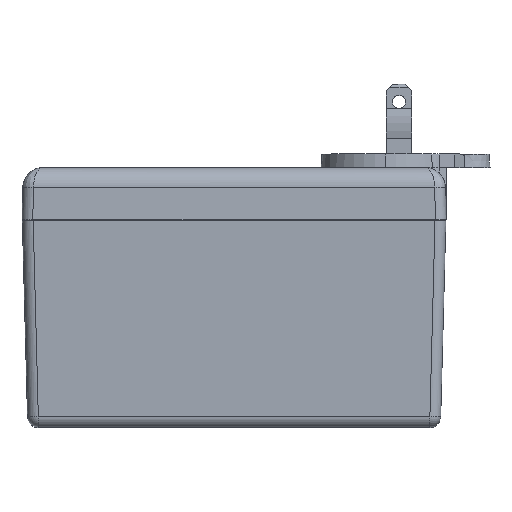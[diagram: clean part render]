
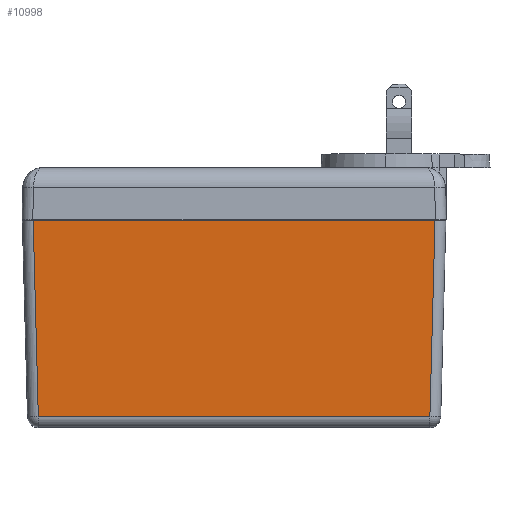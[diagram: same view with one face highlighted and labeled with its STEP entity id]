
A CAD part, top view. The second image highlights one B-rep face of the part: STEP entity #10998.
In plain terms, the highlighted planar face has unit normal (0, -0.026, 1).
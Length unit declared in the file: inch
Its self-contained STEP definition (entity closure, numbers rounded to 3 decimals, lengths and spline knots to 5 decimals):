
#331 = EDGE_LOOP ( 'NONE', ( #17230, #17231, #17232, #17233 ) ) ;
#2639 = FACE_OUTER_BOUND ( 'NONE', #331, .T. ) ;
#8388 = VERTEX_POINT ( 'NONE', #14700 ) ;
#8437 = VERTEX_POINT ( 'NONE', #14638 ) ;
#8485 = VERTEX_POINT ( 'NONE', #14584 ) ;
#8521 = VERTEX_POINT ( 'NONE', #14533 ) ;
#8904 = VECTOR ( 'NONE', #11808, 39.37008 ) ;
#8905 = LINE ( 'NONE', #11809, #8904 ) ;
#8906 = VECTOR ( 'NONE', #11810, 39.37008 ) ;
#8907 = LINE ( 'NONE', #11812, #8906 ) ;
#8908 = VECTOR ( 'NONE', #11813, 39.37008 ) ;
#8909 = LINE ( 'NONE', #11814, #8908 ) ;
#8933 = LINE ( 'NONE', #11830, #8936 ) ;
#8936 = VECTOR ( 'NONE', #11863, 39.37008 ) ;
#10998 = ADVANCED_FACE ( 'NONE', ( #2639 ), #14443, .T. ) ;
#11808 = DIRECTION ( 'NONE',  ( 1., 0., 0. ) ) ;
#11809 = CARTESIAN_POINT ( 'NONE',  ( -2.0545, 0., 1.116 ) ) ;
#11810 = DIRECTION ( 'NONE',  ( 0.026, -0.999, -0.026 ) ) ;
#11812 = CARTESIAN_POINT ( 'NONE',  ( -1.94961, 0.00274, 1.11607 ) ) ;
#11813 = DIRECTION ( 'NONE',  ( 0.026, 0.999, 0.026 ) ) ;
#11814 = CARTESIAN_POINT ( 'NONE',  ( 1.94679, -0.10471, 1.11326 ) ) ;
#11830 = CARTESIAN_POINT ( 'NONE',  ( -2.0545, -1.90275, 1.06617 ) ) ;
#11863 = DIRECTION ( 'NONE',  ( 1., 0., 0. ) ) ;
#12594 = EDGE_CURVE ( 'NONE', #8521, #8485, #8933, .T. ) ;
#12608 = EDGE_CURVE ( 'NONE', #8485, #8388, #8909, .T. ) ;
#12609 = EDGE_CURVE ( 'NONE', #8437, #8521, #8907, .T. ) ;
#12610 = EDGE_CURVE ( 'NONE', #8437, #8388, #8905, .T. ) ;
#14429 = DIRECTION ( 'NONE',  ( 0., -1., -0.026 ) ) ;
#14430 = DIRECTION ( 'NONE',  ( 0., -0.026, 1. ) ) ;
#14438 = CARTESIAN_POINT ( 'NONE',  ( -2.0545, 0., 1.116 ) ) ;
#14443 = PLANE ( 'NONE',  #18372 ) ;
#14533 = CARTESIAN_POINT ( 'NONE',  ( -1.89971, -1.90275, 1.06617 ) ) ;
#14584 = CARTESIAN_POINT ( 'NONE',  ( 1.89971, -1.90275, 1.06617 ) ) ;
#14638 = CARTESIAN_POINT ( 'NONE',  ( -1.94954, 0., 1.116 ) ) ;
#14700 = CARTESIAN_POINT ( 'NONE',  ( 1.94954, 0., 1.116 ) ) ;
#17230 = ORIENTED_EDGE ( 'NONE', *, *, #12594, .T. ) ;
#17231 = ORIENTED_EDGE ( 'NONE', *, *, #12608, .T. ) ;
#17232 = ORIENTED_EDGE ( 'NONE', *, *, #12610, .F. ) ;
#17233 = ORIENTED_EDGE ( 'NONE', *, *, #12609, .T. ) ;
#18372 = AXIS2_PLACEMENT_3D ( 'NONE', #14438, #14430, #14429 ) ;
